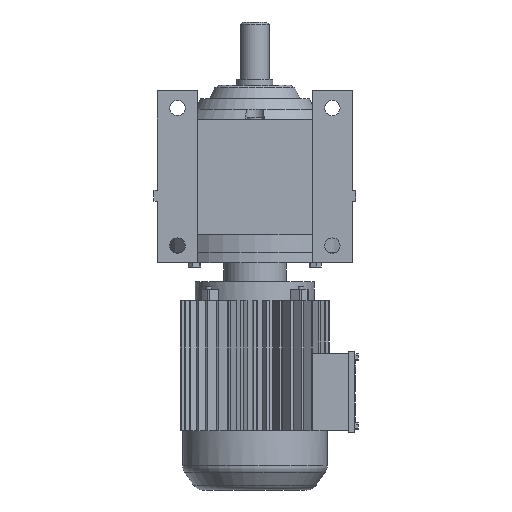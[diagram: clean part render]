
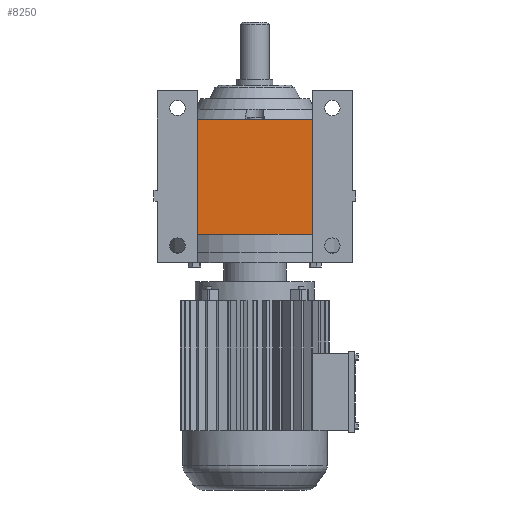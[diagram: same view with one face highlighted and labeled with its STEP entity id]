
A CAD part, front view. The second image highlights one B-rep face of the part: STEP entity #8250.
In plain terms, the highlighted planar face has unit normal (0, -1, 0).
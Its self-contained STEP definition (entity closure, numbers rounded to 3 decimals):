
#2534 = PLANE('',#2535);
#2535 = AXIS2_PLACEMENT_3D('',#2536,#2537,#2538);
#2536 = CARTESIAN_POINT('',(50.,-120.,-9.));
#2537 = DIRECTION('',(-1.,0.,0.));
#2538 = DIRECTION('',(0.,0.,1.));
#2776 = PLANE('',#2777);
#2777 = AXIS2_PLACEMENT_3D('',#2778,#2779,#2780);
#2778 = CARTESIAN_POINT('',(-72.844,6.9,16.125));
#2779 = DIRECTION('',(0.,0.,1.));
#2780 = DIRECTION('',(1.,0.,0.));
#3136 = PLANE('',#3137);
#3137 = AXIS2_PLACEMENT_3D('',#3138,#3139,#3140);
#3138 = CARTESIAN_POINT('',(-72.844,6.9,115.875));
#3139 = DIRECTION('',(0.,0.,1.));
#3140 = DIRECTION('',(1.,0.,0.));
#3655 = PLANE('',#3656);
#3656 = AXIS2_PLACEMENT_3D('',#3657,#3658,#3659);
#3657 = CARTESIAN_POINT('',(-50.,-120.,-9.));
#3658 = DIRECTION('',(1.,0.,0.));
#3659 = DIRECTION('',(0.,0.,-1.));
#4366 = VERTEX_POINT('',#4367);
#4367 = CARTESIAN_POINT('',(50.,-136.667,115.875));
#4388 = EDGE_CURVE('',#4389,#4366,#4391,.T.);
#4389 = VERTEX_POINT('',#4390);
#4390 = CARTESIAN_POINT('',(50.,-136.667,16.125));
#4391 = SURFACE_CURVE('',#4392,(#4396,#4403),.PCURVE_S1.);
#4392 = LINE('',#4393,#4394);
#4393 = CARTESIAN_POINT('',(50.,-136.667,115.875));
#4394 = VECTOR('',#4395,1.);
#4395 = DIRECTION('',(0.,0.,1.));
#4396 = PCURVE('',#2534,#4397);
#4397 = DEFINITIONAL_REPRESENTATION('',(#4398),#4402);
#4398 = LINE('',#4399,#4400);
#4399 = CARTESIAN_POINT('',(124.875,-16.667));
#4400 = VECTOR('',#4401,1.);
#4401 = DIRECTION('',(1.,0.));
#4402 = ( GEOMETRIC_REPRESENTATION_CONTEXT(2) 
PARAMETRIC_REPRESENTATION_CONTEXT() REPRESENTATION_CONTEXT('2D SPACE',''
  ) );
#4403 = PCURVE('',#4404,#4409);
#4404 = PLANE('',#4405);
#4405 = AXIS2_PLACEMENT_3D('',#4406,#4407,#4408);
#4406 = CARTESIAN_POINT('',(-85.,-136.667,115.875));
#4407 = DIRECTION('',(0.,1.,0.));
#4408 = DIRECTION('',(0.,0.,1.));
#4409 = DEFINITIONAL_REPRESENTATION('',(#4410),#4414);
#4410 = LINE('',#4411,#4412);
#4411 = CARTESIAN_POINT('',(0.,135.));
#4412 = VECTOR('',#4413,1.);
#4413 = DIRECTION('',(1.,0.));
#4414 = ( GEOMETRIC_REPRESENTATION_CONTEXT(2) 
PARAMETRIC_REPRESENTATION_CONTEXT() REPRESENTATION_CONTEXT('2D SPACE',''
  ) );
#4540 = EDGE_CURVE('',#4541,#4389,#4543,.T.);
#4541 = VERTEX_POINT('',#4542);
#4542 = CARTESIAN_POINT('',(-50.,-136.667,16.125));
#4543 = SURFACE_CURVE('',#4544,(#4548,#4555),.PCURVE_S1.);
#4544 = LINE('',#4545,#4546);
#4545 = CARTESIAN_POINT('',(-85.,-136.667,16.125));
#4546 = VECTOR('',#4547,1.);
#4547 = DIRECTION('',(1.,0.,0.));
#4548 = PCURVE('',#2776,#4549);
#4549 = DEFINITIONAL_REPRESENTATION('',(#4550),#4554);
#4550 = LINE('',#4551,#4552);
#4551 = CARTESIAN_POINT('',(-12.156,-143.567));
#4552 = VECTOR('',#4553,1.);
#4553 = DIRECTION('',(1.,0.));
#4554 = ( GEOMETRIC_REPRESENTATION_CONTEXT(2) 
PARAMETRIC_REPRESENTATION_CONTEXT() REPRESENTATION_CONTEXT('2D SPACE',''
  ) );
#4555 = PCURVE('',#4404,#4556);
#4556 = DEFINITIONAL_REPRESENTATION('',(#4557),#4561);
#4557 = LINE('',#4558,#4559);
#4558 = CARTESIAN_POINT('',(-99.75,0.));
#4559 = VECTOR('',#4560,1.);
#4560 = DIRECTION('',(0.,1.));
#4561 = ( GEOMETRIC_REPRESENTATION_CONTEXT(2) 
PARAMETRIC_REPRESENTATION_CONTEXT() REPRESENTATION_CONTEXT('2D SPACE',''
  ) );
#5656 = VERTEX_POINT('',#5657);
#5657 = CARTESIAN_POINT('',(-50.,-136.667,115.875));
#5680 = EDGE_CURVE('',#5656,#4366,#5681,.T.);
#5681 = SURFACE_CURVE('',#5682,(#5686,#5693),.PCURVE_S1.);
#5682 = LINE('',#5683,#5684);
#5683 = CARTESIAN_POINT('',(-85.,-136.667,115.875));
#5684 = VECTOR('',#5685,1.);
#5685 = DIRECTION('',(1.,0.,0.));
#5686 = PCURVE('',#3136,#5687);
#5687 = DEFINITIONAL_REPRESENTATION('',(#5688),#5692);
#5688 = LINE('',#5689,#5690);
#5689 = CARTESIAN_POINT('',(-12.156,-143.567));
#5690 = VECTOR('',#5691,1.);
#5691 = DIRECTION('',(1.,0.));
#5692 = ( GEOMETRIC_REPRESENTATION_CONTEXT(2) 
PARAMETRIC_REPRESENTATION_CONTEXT() REPRESENTATION_CONTEXT('2D SPACE',''
  ) );
#5693 = PCURVE('',#4404,#5694);
#5694 = DEFINITIONAL_REPRESENTATION('',(#5695),#5699);
#5695 = LINE('',#5696,#5697);
#5696 = CARTESIAN_POINT('',(0.,0.));
#5697 = VECTOR('',#5698,1.);
#5698 = DIRECTION('',(0.,1.));
#5699 = ( GEOMETRIC_REPRESENTATION_CONTEXT(2) 
PARAMETRIC_REPRESENTATION_CONTEXT() REPRESENTATION_CONTEXT('2D SPACE',''
  ) );
#7905 = EDGE_CURVE('',#5656,#4541,#7906,.T.);
#7906 = SURFACE_CURVE('',#7907,(#7911,#7918),.PCURVE_S1.);
#7907 = LINE('',#7908,#7909);
#7908 = CARTESIAN_POINT('',(-50.,-136.667,115.875));
#7909 = VECTOR('',#7910,1.);
#7910 = DIRECTION('',(0.,0.,-1.));
#7911 = PCURVE('',#3655,#7912);
#7912 = DEFINITIONAL_REPRESENTATION('',(#7913),#7917);
#7913 = LINE('',#7914,#7915);
#7914 = CARTESIAN_POINT('',(-124.875,-16.667));
#7915 = VECTOR('',#7916,1.);
#7916 = DIRECTION('',(1.,0.));
#7917 = ( GEOMETRIC_REPRESENTATION_CONTEXT(2) 
PARAMETRIC_REPRESENTATION_CONTEXT() REPRESENTATION_CONTEXT('2D SPACE',''
  ) );
#7918 = PCURVE('',#4404,#7919);
#7919 = DEFINITIONAL_REPRESENTATION('',(#7920),#7924);
#7920 = LINE('',#7921,#7922);
#7921 = CARTESIAN_POINT('',(0.,35.));
#7922 = VECTOR('',#7923,1.);
#7923 = DIRECTION('',(-1.,0.));
#7924 = ( GEOMETRIC_REPRESENTATION_CONTEXT(2) 
PARAMETRIC_REPRESENTATION_CONTEXT() REPRESENTATION_CONTEXT('2D SPACE',''
  ) );
#8250 = ADVANCED_FACE('',(#8251),#4404,.F.);
#8251 = FACE_BOUND('',#8252,.T.);
#8252 = EDGE_LOOP('',(#8253,#8254,#8255,#8256));
#8253 = ORIENTED_EDGE('',*,*,#5680,.F.);
#8254 = ORIENTED_EDGE('',*,*,#7905,.T.);
#8255 = ORIENTED_EDGE('',*,*,#4540,.T.);
#8256 = ORIENTED_EDGE('',*,*,#4388,.T.);
